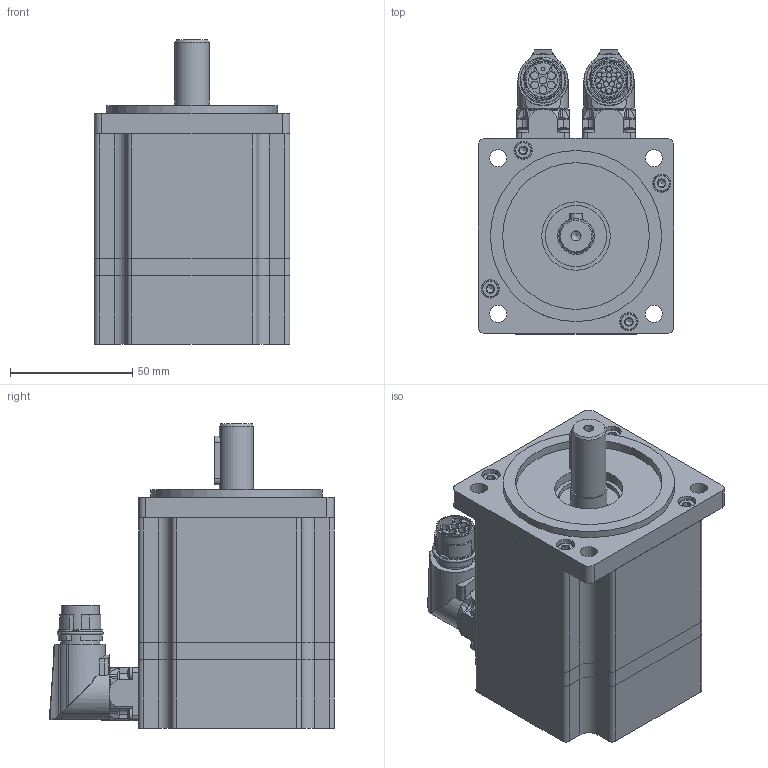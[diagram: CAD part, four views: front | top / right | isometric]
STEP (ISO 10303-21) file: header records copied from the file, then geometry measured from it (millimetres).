
FILE_DESCRIPTION(/* description */ (''),/* implementation_level */ '2;1');
FILE_NAME(/* name */ 'C:\Users\Public\Documents\Autodesk\Inventor LT 2014\Workspace\3D Sangalli Servomotori\DSM7\DSM7 - STEP\DSM7_3x_STEP\DSM7_31_x098.stp',/* time_stamp */ '2020-10-16T12:22:31+02:00',/* author */ ('marcor'),/* organization */ (''),/* preprocessor_version */ 'ST-DEVELOPER v15.2',/* originating_system */ 'Autodesk Inventor LT ',/* authorisation */ '');
FILE_SCHEMA (('AUTOMOTIVE_DESIGN { 1 0 10303 214 3 1 1 }'));
Products named in the file (1): DSM7_31_x098
Bounding box: 80 x 116.35 x 124.5 mm (x, y, z)
Volume: 578589.2 mm3; surface area: 103094 mm2
Topology: 16 solids, 36 shells, 1527 faces, 3971 edges, 2588 vertices
Faces by surface type: plane 673, cylinder 534, cone 164, torus 96, bspline 52, sphere 8
Full cylindrical faces by diameter (mm): 1.3 x1, 2.013 x4, 2.1 x15, 2.224 x8, 2.5 x8, 2.7 x8, 3.2 x6, 3.242 x12, 4 x12, 4.134 x1, 4.5 x12, 4.8 x2, 5 x2, 7 x20, 7.5 x8, 11.7 x1, 13.4 x1, 14 x1, 14.2 x2, 14.95 x1, 15.2 x2, 15.54 x2, 16 x2, 16.8 x2, 17 x2, 19.7 x2, 25 x1, 28 x1, 35 x1, 60 x1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
Entity records: 50169 total; most frequent: CARTESIAN_POINT 13714, ORIENTED_EDGE 7166, DIRECTION 7056, EDGE_CURVE 3583, AXIS2_PLACEMENT_3D 2765, VERTEX_POINT 2481, EDGE_LOOP 1942, LINE 1526
